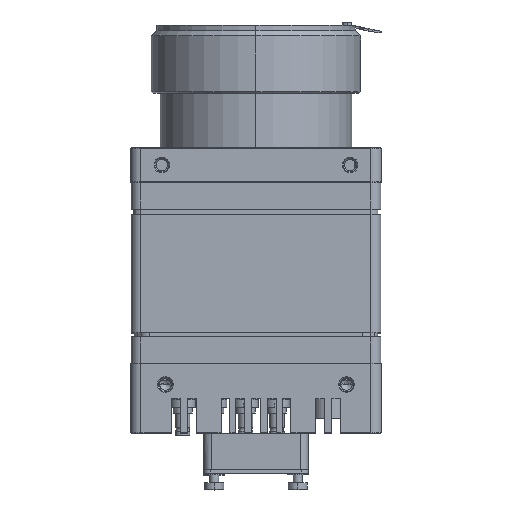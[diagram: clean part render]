
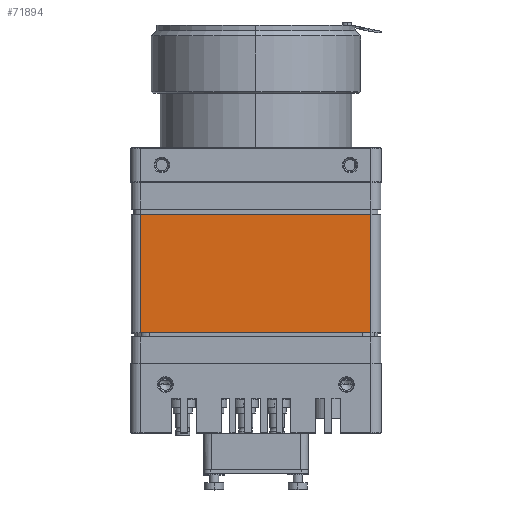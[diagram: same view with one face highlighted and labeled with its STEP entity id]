
A CAD part, top view. The second image highlights one B-rep face of the part: STEP entity #71894.
In plain terms, the highlighted planar face has unit normal (0, 0, 1) as drawn and (0, 0, -1) by its records, which use the part's own axes.
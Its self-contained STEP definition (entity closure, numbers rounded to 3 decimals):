
#35992=DIRECTION('',(-1.,0.,0.));
#35993=VECTOR('',#35992,66.);
#35994=CARTESIAN_POINT('',(33.,-53.1,-35.8));
#35995=LINE('',#35994,#35993);
#36830=DIRECTION('',(0.,1.,0.));
#36831=VECTOR('',#36830,33.9);
#36832=CARTESIAN_POINT('',(-33.,-53.1,-35.8));
#36833=LINE('',#36832,#36831);
#36844=DIRECTION('',(-1.,0.,0.));
#36845=VECTOR('',#36844,66.);
#36846=CARTESIAN_POINT('',(33.,-19.2,-35.8));
#36847=LINE('',#36846,#36845);
#36858=DIRECTION('',(0.,-1.,0.));
#36859=VECTOR('',#36858,33.9);
#36860=CARTESIAN_POINT('',(33.,-19.2,-35.8));
#36861=LINE('',#36860,#36859);
#50227=CARTESIAN_POINT('',(33.,-53.1,-35.8));
#50228=VERTEX_POINT('',#50227);
#50229=CARTESIAN_POINT('',(33.,-19.2,-35.8));
#50230=VERTEX_POINT('',#50229);
#50233=CARTESIAN_POINT('',(-33.,-53.1,-35.8));
#50234=VERTEX_POINT('',#50233);
#50235=CARTESIAN_POINT('',(-33.,-19.2,-35.8));
#50236=VERTEX_POINT('',#50235);
#71881=CARTESIAN_POINT('',(-33.,-10.,-35.8));
#71882=DIRECTION('',(0.,0.,1.));
#71883=DIRECTION('',(1.,0.,0.));
#71884=AXIS2_PLACEMENT_3D('',#71881,#71882,#71883);
#71885=PLANE('',#71884);
#71886=ORIENTED_EDGE('',*,*,#71524,.F.);
#71888=ORIENTED_EDGE('',*,*,#71887,.F.);
#71890=ORIENTED_EDGE('',*,*,#71889,.T.);
#71891=ORIENTED_EDGE('',*,*,#71873,.F.);
#71892=EDGE_LOOP('',(#71886,#71888,#71890,#71891));
#71893=FACE_OUTER_BOUND('',#71892,.F.);
#71894=ADVANCED_FACE('',(#71893),#71885,.F.);
#71524=EDGE_CURVE('',#50228,#50234,#35995,.T.);
#71873=EDGE_CURVE('',#50234,#50236,#36833,.T.);
#71887=EDGE_CURVE('',#50230,#50228,#36861,.T.);
#71889=EDGE_CURVE('',#50230,#50236,#36847,.T.);
